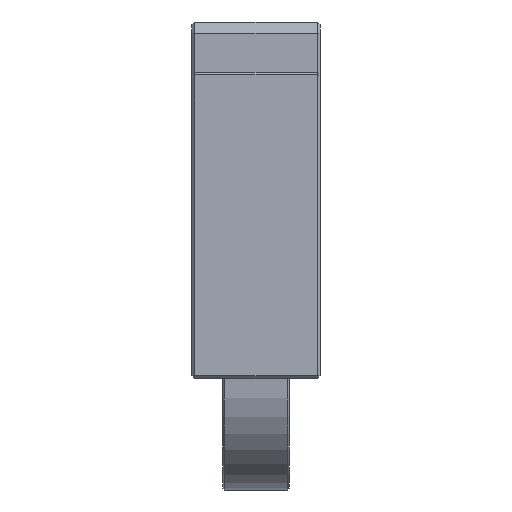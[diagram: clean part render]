
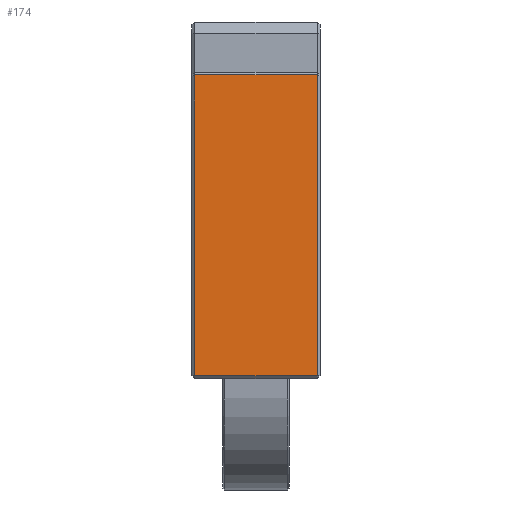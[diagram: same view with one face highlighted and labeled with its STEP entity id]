
A CAD part, left-side view. The second image highlights one B-rep face of the part: STEP entity #174.
In plain terms, the highlighted planar face has unit normal (-1, 0, 0).
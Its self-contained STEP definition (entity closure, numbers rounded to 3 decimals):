
#174 = ADVANCED_FACE( '', ( #588 ), #589, .T. );
#588 = FACE_OUTER_BOUND( '', #1465, .T. );
#589 = PLANE( '', #1466 );
#1465 = EDGE_LOOP( '', ( #2488, #2489, #2490, #2491 ) );
#1466 = AXIS2_PLACEMENT_3D( '', #2492, #2493, #2494 );
#2488 = ORIENTED_EDGE( '', *, *, #5758, .T. );
#2489 = ORIENTED_EDGE( '', *, *, #5759, .T. );
#2490 = ORIENTED_EDGE( '', *, *, #5760, .T. );
#2491 = ORIENTED_EDGE( '', *, *, #5761, .T. );
#2492 = CARTESIAN_POINT( '', ( -43., -11.5, 0. ) );
#2493 = DIRECTION( '', ( -1., 0., 0. ) );
#2494 = DIRECTION( '', ( 0., 0., 1. ) );
#5758 = EDGE_CURVE( '', #6954, #6955, #6956, .T. );
#5759 = EDGE_CURVE( '', #6955, #6957, #6958, .T. );
#5760 = EDGE_CURVE( '', #6957, #6959, #6960, .T. );
#5761 = EDGE_CURVE( '', #6959, #6954, #6961, .T. );
#6954 = VERTEX_POINT( '', #8771 );
#6955 = VERTEX_POINT( '', #8772 );
#6956 = LINE( '', #8773, #8774 );
#6957 = VERTEX_POINT( '', #8775 );
#6958 = LINE( '', #8776, #8777 );
#6959 = VERTEX_POINT( '', #8778 );
#6960 = LINE( '', #8779, #8780 );
#6961 = LINE( '', #8781, #8782 );
#8771 = CARTESIAN_POINT( '', ( -43., -11., 54.5 ) );
#8772 = CARTESIAN_POINT( '', ( -43., 11., 54.5 ) );
#8773 = CARTESIAN_POINT( '', ( -43., -11.5, 54.5 ) );
#8774 = VECTOR( '', #11626, 1000. );
#8775 = CARTESIAN_POINT( '', ( -43., 11., 0.5 ) );
#8776 = CARTESIAN_POINT( '', ( -43., 11., 0. ) );
#8777 = VECTOR( '', #11627, 1000. );
#8778 = CARTESIAN_POINT( '', ( -43., -11., 0.5 ) );
#8779 = CARTESIAN_POINT( '', ( -43., -11.5, 0.5 ) );
#8780 = VECTOR( '', #11628, 1000. );
#8781 = CARTESIAN_POINT( '', ( -43., -11., 54.5 ) );
#8782 = VECTOR( '', #11629, 1000. );
#11626 = DIRECTION( '', ( 0., 1., 0. ) );
#11627 = DIRECTION( '', ( 0., 0., -1. ) );
#11628 = DIRECTION( '', ( 0., -1., 0. ) );
#11629 = DIRECTION( '', ( 0., 0., 1. ) );
